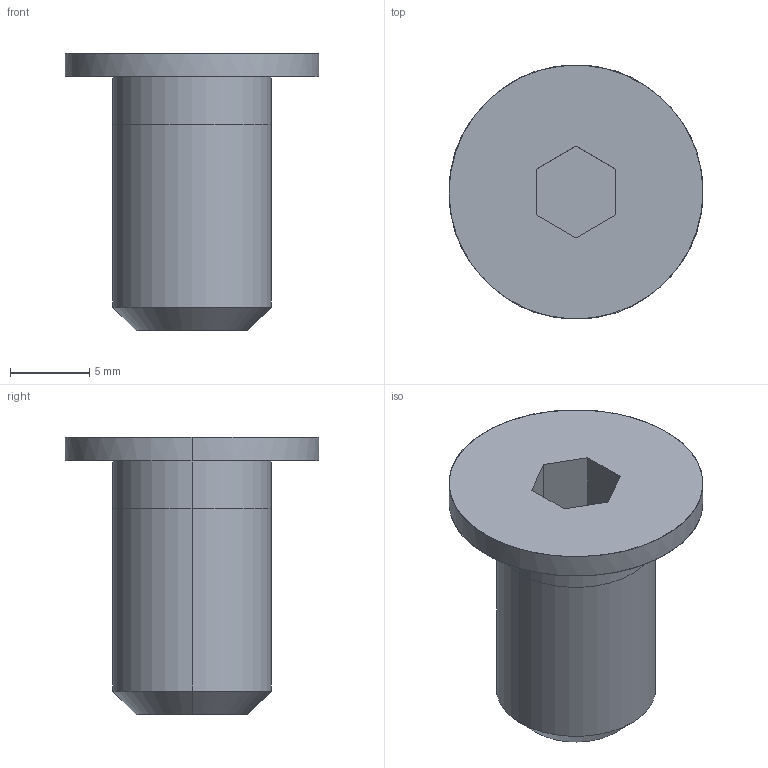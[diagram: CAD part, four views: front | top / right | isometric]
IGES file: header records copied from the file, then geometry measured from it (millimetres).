
Global section: file name: E:\UnigraphicsGraphicData\MISUMI_PRESS-PARTS\IGES\3d_cbss10-16_03497_r00.igs; native system: NX V5.0; preprocessor: UGS NX IGES V5.0; author: MISUMI; date: 20110105.160201; units: millimetre
Bounding box: 16 x 16 x 17.5 mm (x, y, z)
Surface area: 1037.4 mm2 (no closed solid volume)
Topology: 0 solids, 0 shells, 18 faces, 100 edges, 100 vertices
Faces by surface type: bspline 18
